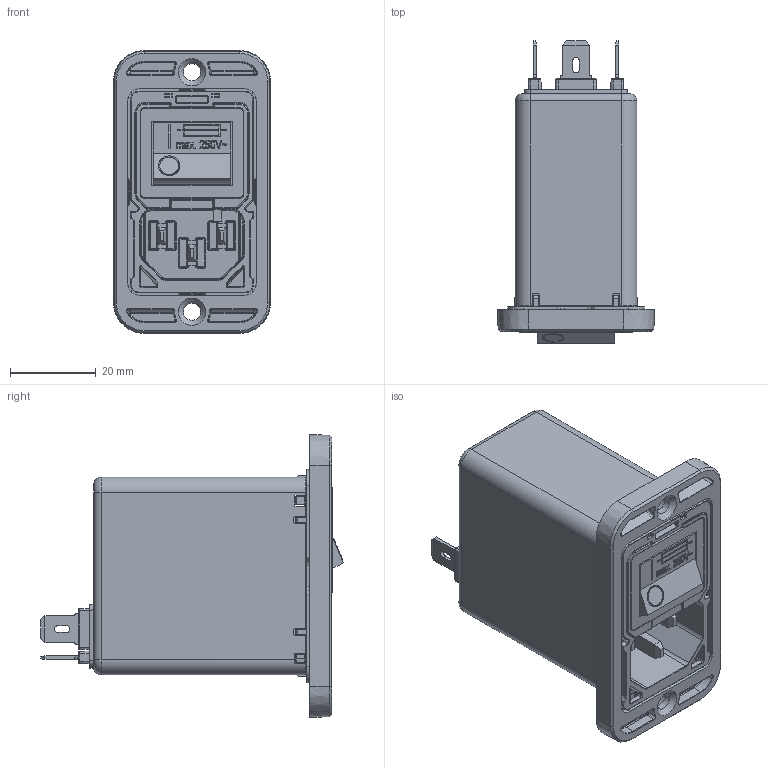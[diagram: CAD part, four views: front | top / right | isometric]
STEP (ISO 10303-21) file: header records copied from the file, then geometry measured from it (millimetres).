
FILE_DESCRIPTION((''),'2;1');
FILE_NAME('H:\02_Projects\A_Others\Z_Support\Luis\Cherry_STP\Step_Files\1 Stage\1_stage_faston_vertical_front.stp','2012-07-26T15:11:50',('Samuel.Meier'),(''),'Autodesk Inventor 2010','Autodesk Inventor 2010','');
FILE_SCHEMA(('AUTOMOTIVE_DESIGN { 1 2 10303 214 0 1 1 1 }'));
Length unit declared in the file: millimetre
Products named in the file (1): 1_stage_faston_vertical_front
Bounding box: 36.67 x 70.74 x 66.07 mm (x, y, z)
Surface area: 40377 mm2 (no closed solid volume)
Topology: 0 solids, 11 shells, 3439 faces, 9121 edges, 5630 vertices
Faces by surface type: plane 1361, cylinder 1272, bspline 540, torus 107, sphere 91, cone 68
Full cylindrical faces by diameter (mm): 0.8 x4, 1 x2, 1.1 x10, 1.2 x1, 2.7 x1, 3.3 x1, 3.6 x1, 4 x2, 4.5 x2, 6.5 x1, 7.2 x1, 8.2 x1
Entity records: 117836 total; most frequent: CARTESIAN_POINT 30418, ORIENTED_EDGE 17974, DIRECTION 17348, EDGE_CURVE 8987, AXIS2_PLACEMENT_3D 6105, VERTEX_POINT 5622, VECTOR 5138, LINE 5138
